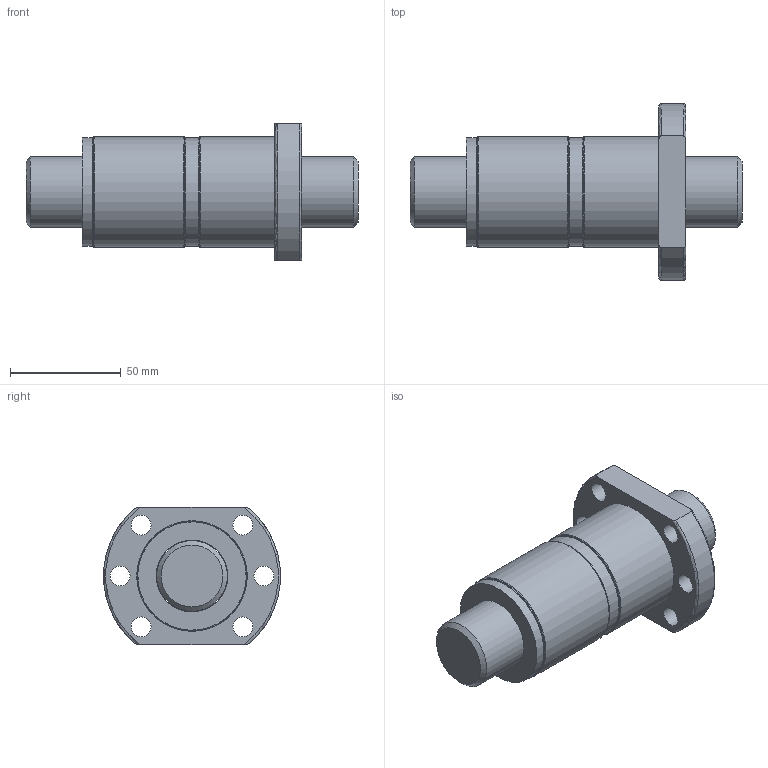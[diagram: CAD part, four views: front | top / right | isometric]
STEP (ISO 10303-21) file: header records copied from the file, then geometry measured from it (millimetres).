
FILE_DESCRIPTION(/* description */ (''),/* implementation_level */ '2;1');
FILE_NAME(/* name */ 'DFS3206',/* time_stamp */ '2007-10-26T13:41:08+08:00',/* author */ (''),/* organization */ (''),/* preprocessor_version */ 'ST-DEVELOPER v9',/* originating_system */ 'UGS - NX 3.0',/* authorisation */ '');
FILE_SCHEMA (('CONFIG_CONTROL_DESIGN'));
Length unit declared in the file: millimetre
Products named in the file (1): jaso15A4i32j
Bounding box: 150 x 79.74 x 62 mm (x, y, z)
Volume: 248814.5 mm3; surface area: 63283.9 mm2
Topology: 7 solids, 7 shells, 51 faces, 103 edges, 68 vertices
Faces by surface type: cylinder 22, plane 18, torus 9, cone 2
Full cylindrical faces by diameter (mm): 9 x6, 32 x1, 32.3 x1, 32.5 x2, 33.8 x2, 35 x1, 49 x4, 50 x3
Entity records: 1426 total; most frequent: CARTESIAN_POINT 330, DIRECTION 222, ORIENTED_EDGE 142, AXIS2_PLACEMENT_3D 107, EDGE_LOOP 104, FACE_BOUND 78, EDGE_CURVE 71, VERTEX_POINT 63
